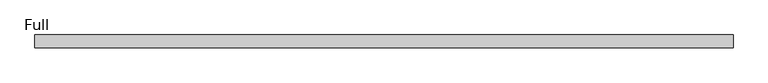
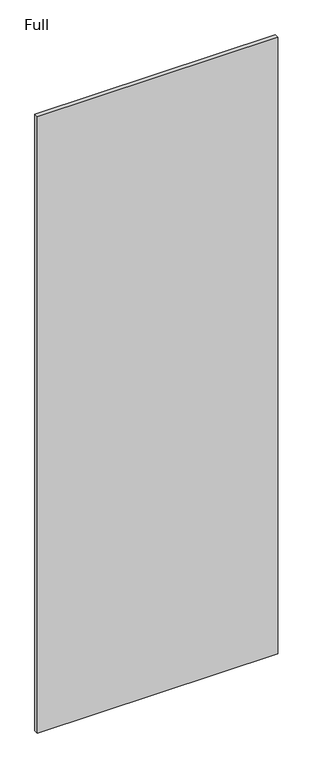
"""IFC4 building model written with IfcOpenShell, lengths in millimetres: proxy geometry, Panel-Fascia-Teknion-Altos-Standard : Full."""

import ifcopenshell
import ifcopenshell.guid

model = None  # the IFC model being written
_history = None  # IfcOwnerHistory: only IFC2X3 demands one
_inside = {}  # id of a spatial element -> (the spatial element, [elements in it])
_under = {}  # id of a project, library or spatial element -> (it, [spatial elements below it])
_declared = {}  # id of a project -> (the project, [libraries it declares])
_typed = {}  # id of a type object -> (the type object, [elements of that type])
_made_of = {}  # id of a material, layer set ... -> (it, [elements and type objects made of it])


def new_model(schema):
    """Start an empty IFC model of exactly this schema.

    Asked for "IFC4X3", IfcOpenShell would pick the latest addendum, in which some entities
    have other attributes; the version numbers below select the first issue.
    IFC2X3 requires an IfcOwnerHistory on every rooted entity: one is made here for all.
    """
    global model, _history
    if schema == "IFC4X3":
        model = ifcopenshell.file(schema_version=(4, 3, 0, 0))
    else:
        model = ifcopenshell.file(schema=schema)
    _inside.clear()
    _under.clear()
    _declared.clear()
    _typed.clear()
    _made_of.clear()
    _history = None
    if model.schema == "IFC2X3":
        org = make("IfcOrganization", Name="unknown")
        user = make(
            "IfcPersonAndOrganization",
            ThePerson=make("IfcPerson", FamilyName="unknown"),
            TheOrganization=org,
        )
        app = make(
            "IfcApplication",
            ApplicationDeveloper=org,
            Version="unknown",
            ApplicationFullName="unknown",
            ApplicationIdentifier="unknown",
        )
        _history = make(
            "IfcOwnerHistory",
            OwningUser=user,
            OwningApplication=app,
            ChangeAction="ADDED",
            CreationDate=0,
        )
    return model


def make(cls, **values):
    """One entity of the class cls with the attributes given. An attribute that is None is left unset."""
    return model.create_entity(
        cls, **{name: value for name, value in values.items() if value is not None}
    )


def rooted(cls, **values):
    """An entity with a GlobalId (a new one), such as an element, a storey or a relation."""
    return make(cls, GlobalId=ifcopenshell.guid.new(), OwnerHistory=_history, **values)


def si_unit(unit_type, name, prefix=None):
    """IfcSIUnit, for example si_unit("LENGTHUNIT", "METRE", prefix="MILLI")."""
    return make("IfcSIUnit", UnitType=unit_type, Prefix=prefix, Name=name)


def assignment(units):
    """IfcUnitAssignment: the units of a project."""
    return None if units is None else make("IfcUnitAssignment", Units=units)


def point(xyz):
    """IfcCartesianPoint."""
    return None if xyz is None else make("IfcCartesianPoint", Coordinates=xyz)


def direction(xyz):
    """IfcDirection."""
    return None if xyz is None else make("IfcDirection", DirectionRatios=xyz)


def frame(location, z_axis=None, x_axis=None):
    """IfcAxis2Placement3D, a coordinate frame: its origin and axes. An axis left out is left unset."""
    return make(
        "IfcAxis2Placement3D",
        Location=point(location),
        Axis=direction(z_axis),
        RefDirection=direction(x_axis),
    )


def origin():
    """The frame at (0, 0, 0) with its axes left unset."""
    return frame((0.0, 0.0, 0.0))


def place(relative_to, where):
    """IfcLocalPlacement: puts the frame where relative to a parent placement (None: the world)."""
    return make(
        "IfcLocalPlacement", PlacementRelTo=relative_to, RelativePlacement=where
    )


def context(
    kind, dimensions, precision=None, world=None, true_north=None, identifier=None
):
    """IfcGeometricRepresentationContext, for example the 3D "Model" context."""
    return make(
        "IfcGeometricRepresentationContext",
        ContextIdentifier=identifier,
        ContextType=kind,
        CoordinateSpaceDimension=dimensions,
        Precision=precision,
        WorldCoordinateSystem=world,
        TrueNorth=true_north,
    )


def project(units=None, contexts=None):
    """IfcProject with its units and contexts."""
    return rooted(
        "IfcProject",
        Name="project",
        RepresentationContexts=contexts,
        UnitsInContext=assignment(units),
    )


def spatial(cls, under=None, at=None, **own):
    """A site, building, storey or space (cls), placed at a placement, below another one or the project."""
    s = rooted(cls, ObjectPlacement=at, **own)
    if under is not None:
        _under.setdefault(under.id(), (under, []))[1].append(s)
    return s


def polyline(points):
    """IfcPolyline through the points."""
    return make("IfcPolyline", Points=[point(p) for p in points])


def outline(outer, holes=None, kind="AREA"):
    """IfcArbitraryClosedProfileDef: a profile drawn as a closed curve; with holes, ...WithVoids."""
    if holes is None:
        return make("IfcArbitraryClosedProfileDef", ProfileType=kind, OuterCurve=outer)
    return make(
        "IfcArbitraryProfileDefWithVoids",
        ProfileType=kind,
        OuterCurve=outer,
        InnerCurves=holes,
    )


def extrude(swept, where, along, depth):
    """IfcExtrudedAreaSolid: the profile swept, set in the frame where, extruded along a direction by depth."""
    return make(
        "IfcExtrudedAreaSolid",
        SweptArea=swept,
        Position=where,
        ExtrudedDirection=direction(along),
        Depth=depth,
    )


def shape(context_of_items, identifier, shape_type, items):
    """IfcShapeRepresentation: the items that make up one representation, for example the "Body"."""
    return make(
        "IfcShapeRepresentation",
        ContextOfItems=context_of_items,
        RepresentationIdentifier=identifier,
        RepresentationType=shape_type,
        Items=items,
    )


def source(mapping_origin, context_of_items, identifier, shape_type, items):
    """IfcRepresentationMap: a shape defined once, which mapped items show again and again."""
    return make(
        "IfcRepresentationMap",
        MappingOrigin=mapping_origin,
        MappedRepresentation=shape(context_of_items, identifier, shape_type, items),
    )


def transform(
    local_origin,
    x_axis=None,
    y_axis=None,
    z_axis=None,
    scale=None,
    scale2=None,
    scale3=None,
    uniform=True,
):
    """IfcCartesianTransformationOperator3D, or its non-uniform kind. x_axis, y_axis, z_axis: its Axis1, 2, 3."""
    if uniform:
        return make(
            "IfcCartesianTransformationOperator3D",
            Axis1=direction(x_axis),
            Axis2=direction(y_axis),
            LocalOrigin=point(local_origin),
            Scale=scale,
            Axis3=direction(z_axis),
        )
    return make(
        "IfcCartesianTransformationOperator3DnonUniform",
        Axis1=direction(x_axis),
        Axis2=direction(y_axis),
        LocalOrigin=point(local_origin),
        Scale=scale,
        Axis3=direction(z_axis),
        Scale2=scale2,
        Scale3=scale3,
    )


def mapped(mapping_source, mapping_target):
    """IfcMappedItem: shows the shape of a source again, moved by a transform."""
    return make(
        "IfcMappedItem", MappingSource=mapping_source, MappingTarget=mapping_target
    )


def made_of(thing, what):
    """Note that an element or type object is made of a material, layer set ...; save() writes the relation."""
    if what is not None:
        _made_of.setdefault(what.id(), (what, []))[1].append(thing)
    return thing


def element(
    cls,
    number,
    at=None,
    inside=None,
    cuts=None,
    type_object=None,
    material=None,
    context=None,
    identifier="Body",
    shape_type=None,
    held_by="IfcProductDefinitionShape",
    body=None,
    shapes=None,
    **own,
):
    """One element of the class cls, such as IfcWall. Its Tag is "e" and its number.

    at: its placement. inside: the storey or other place that contains it. cuts: it is an
    opening in that element (IfcRelVoidsElement). A single representation is given by context,
    identifier, shape_type and body (its items); several are given by shapes. held_by: the class
    of the entity that holds the representations. save() writes the other relations.
    """
    e = rooted(cls, Tag="e%d" % number, ObjectPlacement=at, **own)
    if body is not None:
        shapes = [shape(context, identifier, shape_type, body)]
    if shapes is not None:
        e.Representation = make(held_by, Representations=shapes)
    if inside is not None:
        _inside.setdefault(inside.id(), (inside, []))[1].append(e)
    if cuts is not None:
        rooted(
            "IfcRelVoidsElement", RelatingBuildingElement=cuts, RelatedOpeningElement=e
        )
    if type_object is not None:
        _typed.setdefault(type_object.id(), (type_object, []))[1].append(e)
    return made_of(e, material)


def aggregate(whole, parts):
    """IfcRelAggregates: a whole, such as a stair, and the parts it consists of."""
    return rooted("IfcRelAggregates", RelatingObject=whole, RelatedObjects=parts)


def save(model, path):
    """Write the relations noted so far, then the file.

    IfcRelAggregates (storeys below a building ...), IfcRelContainedInSpatialStructure (elements
    in a storey), IfcRelDefinesByType, IfcRelAssociatesMaterial and IfcRelDeclares: one each for
    every whole, place, type object, material and project.
    """
    for whole, parts in _under.values():
        aggregate(whole, parts)
    for where, things in _inside.values():
        rooted(
            "IfcRelContainedInSpatialStructure",
            RelatedElements=things,
            RelatingStructure=where,
        )
    for kind, things in _typed.values():
        rooted("IfcRelDefinesByType", RelatedObjects=things, RelatingType=kind)
    for what, things in _made_of.values():
        rooted("IfcRelAssociatesMaterial", RelatedObjects=things, RelatingMaterial=what)
    for by, libraries in _declared.values():
        rooted("IfcRelDeclares", RelatingContext=by, RelatedDefinitions=libraries)
    model.write(path)


def full_bf9f4bac(model_context):
    return source(origin(), model_context, "Body", "SweptSolid", [
        extrude(outline(polyline([(523.875, -9.525), (-523.875, -9.525), (-523.875, 9.525), (523.875, 9.525), (523.875, -9.525)])), frame((0.0, 0.0, 3.175), z_axis=(0.0, 0.0, 1.0), x_axis=(1.0, 0.0, 0.0)), (0.0, 0.0, 1.0), 2840.736),
    ])


if __name__ == "__main__":
    model = new_model("IFC4")
    model_context = context("Model", 3, world=origin())
    ifc_project = project(units=[si_unit("LENGTHUNIT", "METRE", prefix="MILLI")], contexts=[model_context])
    site = spatial("IfcSite", under=ifc_project)
    building = spatial("IfcBuilding", under=site)
    placement = place(None, origin())
    full_shape = full_bf9f4bac(model_context)
    element("IfcBuildingElementProxy", 1, Name="Panel-Fascia-Teknion-Altos-Standard : Full", ObjectType="Panel-Fascia-Teknion-Altos-Standard : Full", at=placement, inside=building, context=model_context, shape_type="MappedRepresentation", body=[
        mapped(full_shape, transform((0.0, 0.0, 0.0), x_axis=(1.0, 0.0, 0.0), y_axis=(0.0, 1.0, 0.0), z_axis=(0.0, 0.0, 1.0))),
    ])
    save(model, "model.ifc")
